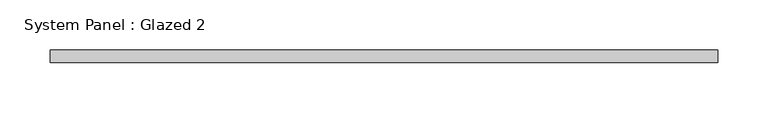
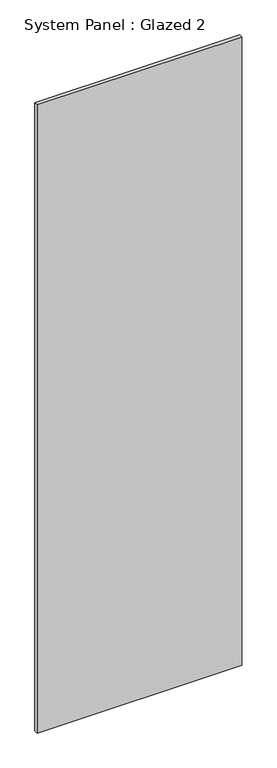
"""IFC4 building model written with IfcOpenShell, lengths in millimetres: plate geometry, System Panel : Glazed 2."""

from ifc_helpers import new_model, si_unit, origin, origin_with_axes, place, context, project, spatial, polyline, outline, extrude, source, transform, mapped, element, save


def system_panel_glazed_2_025f0f58(model_context):
    return source(origin(), model_context, "Body", "SweptSolid", [
        extrude(outline(polyline([(333.7704865, -6.35), (-333.7704865, -6.35), (-333.7704865, 6.35), (333.7704865, 6.35), (333.7704865, -6.35)])), origin_with_axes(), (0.0, 0.0, 1.0), 2164.8011538),
    ])


if __name__ == "__main__":
    model = new_model("IFC4")
    model_context = context("Model", 3, world=origin())
    ifc_project = project(units=[si_unit("LENGTHUNIT", "METRE", prefix="MILLI")], contexts=[model_context])
    site = spatial("IfcSite", under=ifc_project)
    building = spatial("IfcBuilding", under=site)
    placement = place(None, origin())
    system_panel_glazed_2_shape = system_panel_glazed_2_025f0f58(model_context)
    element("IfcPlate", 1, ObjectType="System Panel : Glazed 2", at=placement, inside=building, context=model_context, shape_type="MappedRepresentation", body=[
        mapped(system_panel_glazed_2_shape, transform((0.0, 0.0, 0.0), x_axis=(1.0, 0.0, 0.0), y_axis=(0.0, 1.0, 0.0), z_axis=(0.0, 0.0, 1.0))),
    ])
    save(model, "model.ifc")
